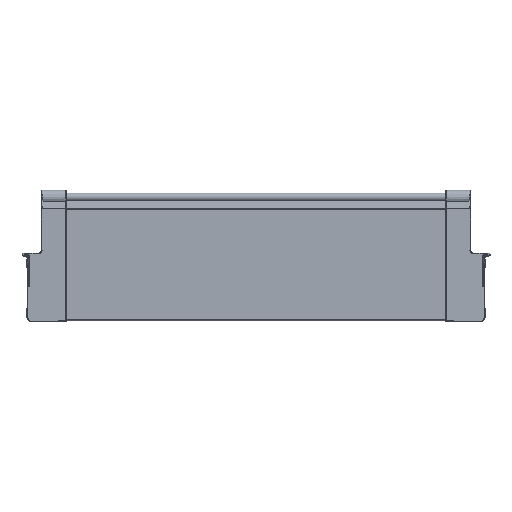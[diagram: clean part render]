
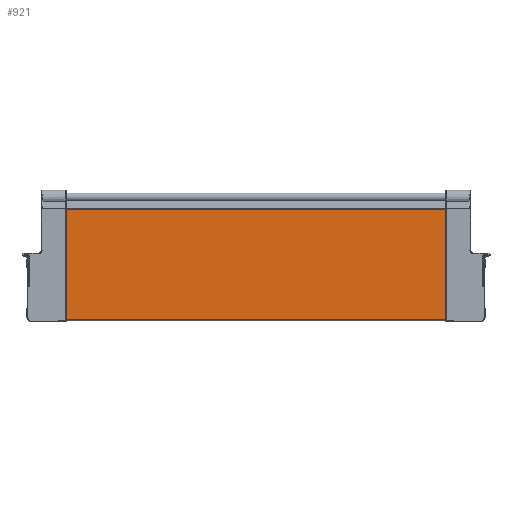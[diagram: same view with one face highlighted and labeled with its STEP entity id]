
A CAD part, top view. The second image highlights one B-rep face of the part: STEP entity #921.
In plain terms, the highlighted planar face has unit normal (0, 0, 1).
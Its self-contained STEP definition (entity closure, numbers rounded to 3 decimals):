
#918 = VERTEX_POINT ( 'NONE', #8226 ) ;
#920 = EDGE_CURVE ( 'NONE', #4609, #918, #8289, .T. ) ;
#921 = ADVANCED_FACE ( 'NONE', ( #8285 ), #8284, .F. ) ;
#922 = EDGE_LOOP ( 'NONE', ( #923, #924, #925, #928 ) ) ;
#923 = ORIENTED_EDGE ( 'NONE', *, *, #4613, .F. ) ;
#924 = ORIENTED_EDGE ( 'NONE', *, *, #920, .T. ) ;
#925 = ORIENTED_EDGE ( 'NONE', *, *, #926, .T. ) ;
#926 = EDGE_CURVE ( 'NONE', #918, #927, #8279, .T. ) ;
#927 = VERTEX_POINT ( 'NONE', #8275 ) ;
#928 = ORIENTED_EDGE ( 'NONE', *, *, #983, .F. ) ;
#983 = EDGE_CURVE ( 'NONE', #4614, #927, #8367, .T. ) ;
#3274 = CARTESIAN_POINT ( 'NONE',  ( -38.8, -64.725, 4.05 ) ) ;
#3275 = DIRECTION ( 'NONE',  ( 0., -1., 0. ) ) ;
#3276 = VECTOR ( 'NONE', #3275, 1000. ) ;
#3277 = CARTESIAN_POINT ( 'NONE',  ( -38.8, 45.248, 4.05 ) ) ;
#3278 = LINE ( 'NONE', #3277, #3276 ) ;
#3284 = CARTESIAN_POINT ( 'NONE',  ( -38.8, 45.248, 4.05 ) ) ;
#4609 = VERTEX_POINT ( 'NONE', #3284 ) ;
#4613 = EDGE_CURVE ( 'NONE', #4609, #4614, #3278, .T. ) ;
#4614 = VERTEX_POINT ( 'NONE', #3274 ) ;
#8226 = CARTESIAN_POINT ( 'NONE',  ( -418.3, 45.248, 4.05 ) ) ;
#8275 = CARTESIAN_POINT ( 'NONE',  ( -418.3, -64.725, 4.05 ) ) ;
#8276 = DIRECTION ( 'NONE',  ( 0., -1., 0. ) ) ;
#8277 = VECTOR ( 'NONE', #8276, 1000. ) ;
#8278 = CARTESIAN_POINT ( 'NONE',  ( -418.3, 45.248, 4.05 ) ) ;
#8279 = LINE ( 'NONE', #8278, #8277 ) ;
#8280 = DIRECTION ( 'NONE',  ( 0., 1., 0. ) ) ;
#8281 = DIRECTION ( 'NONE',  ( 0., 0., -1. ) ) ;
#8282 = CARTESIAN_POINT ( 'NONE',  ( 89.157, 45.248, 4.05 ) ) ;
#8283 = AXIS2_PLACEMENT_3D ( 'NONE', #8282, #8281, #8280 ) ;
#8284 = PLANE ( 'NONE',  #8283 ) ;
#8285 = FACE_OUTER_BOUND ( 'NONE', #922, .T. ) ;
#8286 = DIRECTION ( 'NONE',  ( -1., 0., 0. ) ) ;
#8287 = VECTOR ( 'NONE', #8286, 1000. ) ;
#8288 = CARTESIAN_POINT ( 'NONE',  ( 89.157, 45.248, 4.05 ) ) ;
#8289 = LINE ( 'NONE', #8288, #8287 ) ;
#8364 = DIRECTION ( 'NONE',  ( -1., 0., 0. ) ) ;
#8365 = VECTOR ( 'NONE', #8364, 1000. ) ;
#8366 = CARTESIAN_POINT ( 'NONE',  ( 89.157, -64.725, 4.05 ) ) ;
#8367 = LINE ( 'NONE', #8366, #8365 ) ;
